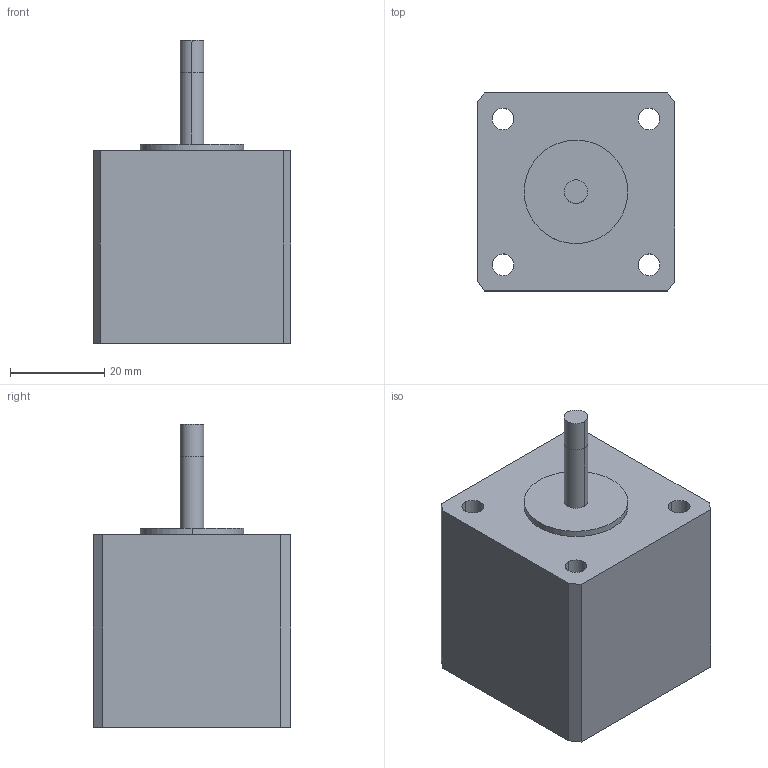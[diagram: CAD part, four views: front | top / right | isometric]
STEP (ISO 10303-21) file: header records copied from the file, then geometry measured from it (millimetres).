
FILE_DESCRIPTION(/* description */ (''),/* implementation_level */ '2;1');
FILE_NAME(/* name */ 'STEPPE~1',/* time_stamp */ '2019-04-01T20:05:08-03:00',/* author */ (''),/* organization */ (''),/* preprocessor_version */ 'ST-DEVELOPER v16.5',/* originating_system */ '',/* authorisation */ '');
FILE_SCHEMA (('AUTOMOTIVE_DESIGN'));
Length unit declared in the file: millimetre
Products named in the file (1): Document
Bounding box: 42 x 42 x 64.38 mm (x, y, z)
Volume: 70285.4 mm3; surface area: 12924.9 mm2
Topology: 1 solids, 1 shells, 26 faces, 64 edges, 42 vertices
Faces by surface type: bspline 14, plane 12
Entity records: 819 total; most frequent: CARTESIAN_POINT 402, ORIENTED_EDGE 128, EDGE_CURVE 64, VERTEX_POINT 42, EDGE_LOOP 36, ADVANCED_FACE 26, FACE_OUTER_BOUND 26, B_SPLINE_CURVE_WITH_KNOTS 24
